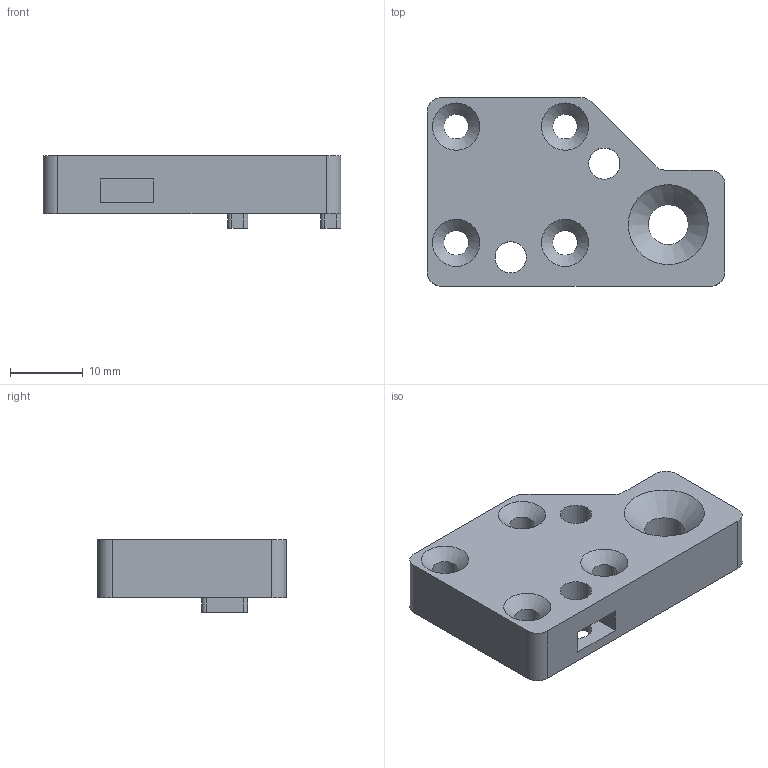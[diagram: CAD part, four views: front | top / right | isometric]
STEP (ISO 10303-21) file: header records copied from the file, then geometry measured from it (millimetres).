
FILE_DESCRIPTION(('Open CASCADE Model'),'2;1');
FILE_NAME('XyJointLeft','2026-06-25T14:49:40',('Author'),('Open CASCADE' ),'Open CASCADE STEP processor 7.8','build123d','Unknown');
FILE_SCHEMA(('AUTOMOTIVE_DESIGN { 1 0 10303 214 1 1 1 1 }'));
Length unit declared in the file: millimetre
Products named in the file (1): XyJointLeft
Bounding box: 41 x 26 x 10 mm (x, y, z)
Volume: 6269.2 mm3; surface area: 3596.9 mm2
Topology: 1 solids, 1 shells, 55 faces, 145 edges, 95 vertices
Faces by surface type: plane 27, cylinder 23, cone 5
Full cylindrical faces by diameter (mm): 3.4 x4, 4.3 x4, 5.5 x1
Entity records: 3719 total; most frequent: CARTESIAN_POINT 742, DIRECTION 572, LINE 338, VECTOR 338, ORIENTED_EDGE 290, PCURVE 290, DEFINITIONAL_REPRESENTATION 290, EDGE_CURVE 145
